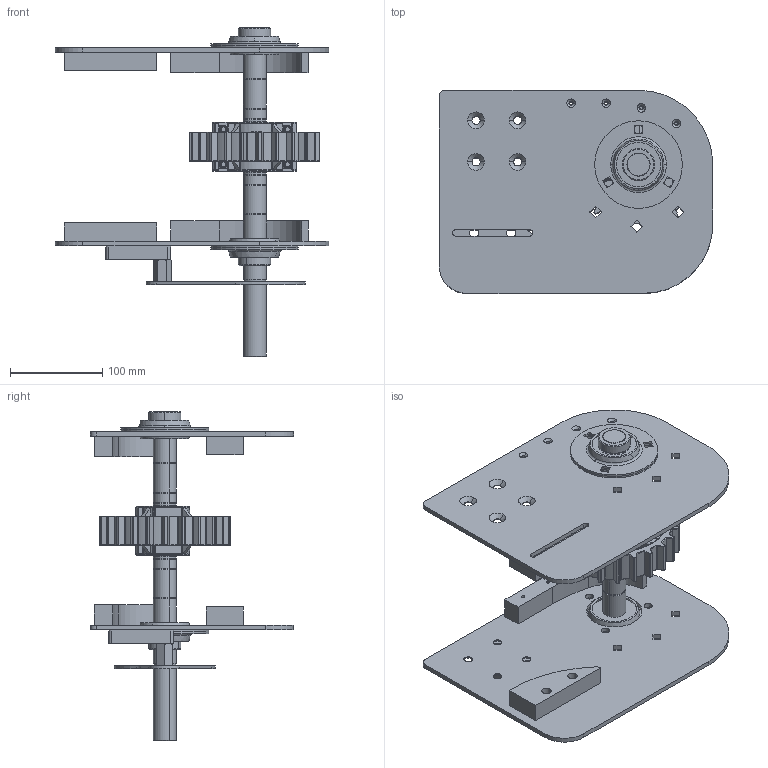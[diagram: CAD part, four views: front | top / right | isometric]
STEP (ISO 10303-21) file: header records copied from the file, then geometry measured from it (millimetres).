
FILE_DESCRIPTION (( 'STEP AP214' ), '1' );
FILE_NAME ('2000.750.149-1S.STEP', '2021-09-20T14:39:17', ( '' ), ( '' ), 'SwSTEP 2.0', 'SolidWorks 2018', '' );
FILE_SCHEMA (( 'AUTOMOTIVE_DESIGN' ));
Length unit declared in the file: millimetre
Products named in the file (11): 2000.750.103-1; 2000.001.018; 2000.001.016; SBPF 205; 2000.001.019; 2000.001.102-1S; 084.802.027; RUOTE DI RINVIO NSX881; 084.808.004; 2000.001.015-1; 2000.750.149-1S
Assembly tree (13 placements, depth 2):
  2000.750.149-1S
    2000.001.018
    2000.001.015-1  x2
    084.802.027
    2000.001.016  x2
    SBPF 205  x2
    RUOTE DI RINVIO NSX881
    2000.001.019
    2000.001.102-1S
    084.808.004
    2000.750.103-1
Bounding box: 296.5 x 220 x 357 mm (x, y, z)
Volume: 1575378.9 mm3; surface area: 524513.5 mm2
Topology: 25 solids, 25 shells, 1941 faces, 4730 edges, 2759 vertices
Faces by surface type: cylinder 752, bspline 544, plane 455, cone 122, torus 48, sphere 20
Entity records: 63114 total; most frequent: CARTESIAN_POINT 21801, ORIENTED_EDGE 8730, DIRECTION 8282, EDGE_CURVE 4365, AXIS2_PLACEMENT_3D 3280, VERTEX_POINT 2595, EDGE_LOOP 2036, CIRCLE 1958
